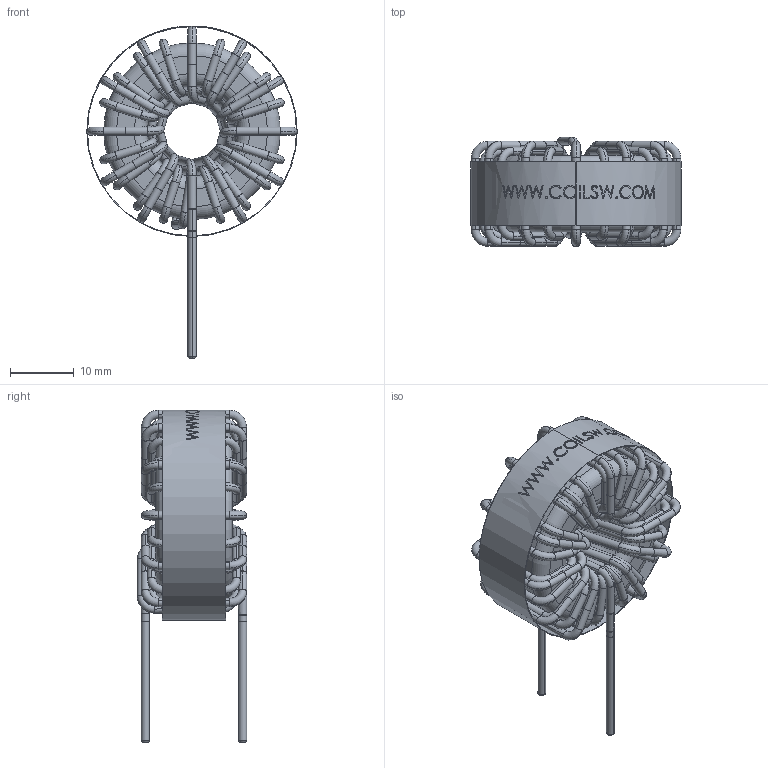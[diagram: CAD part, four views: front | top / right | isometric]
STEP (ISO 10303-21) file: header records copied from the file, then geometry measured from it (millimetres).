
FILE_DESCRIPTION (( 'STEP AP214' ), '1' );
FILE_NAME ('HF270-750M-8.0AV.STEP', '2022-01-11T12:20:20', ( '' ), ( '' ), 'SwSTEP 2.0', 'SolidWorks 2015', '' );
FILE_SCHEMA (( 'AUTOMOTIVE_DESIGN' ));
Length unit declared in the file: millimetre
Products named in the file (4): Core; winding; Wrapper; HF270-750M-8.0AV
Assembly tree (3 placements, depth 2):
  HF270-750M-8.0AV
    Core
    winding
    Wrapper
Bounding box: 33 x 17.16 x 52.05 mm (x, y, z)
Volume: 7093.4 mm3; surface area: 10105.8 mm2
Topology: 14 solids, 14 shells, 777 faces, 2141 edges, 1408 vertices
Faces by surface type: cylinder 334, torus 274, bspline 103, plane 66
Entity records: 34246 total; most frequent: CARTESIAN_POINT 11936, DIRECTION 4623, ORIENTED_EDGE 4282, AXIS2_PLACEMENT_3D 2142, EDGE_CURVE 2141, CIRCLE 1462, VERTEX_POINT 1408, EDGE_LOOP 799
